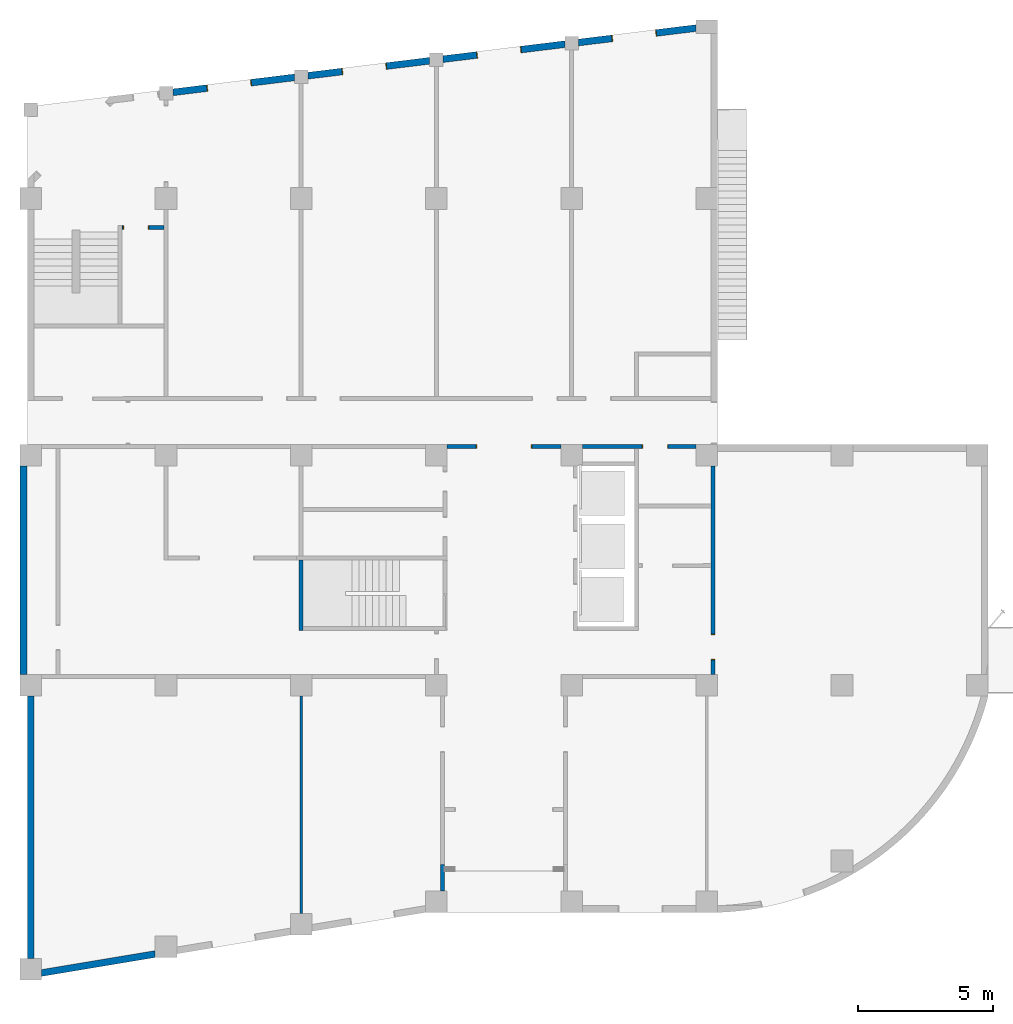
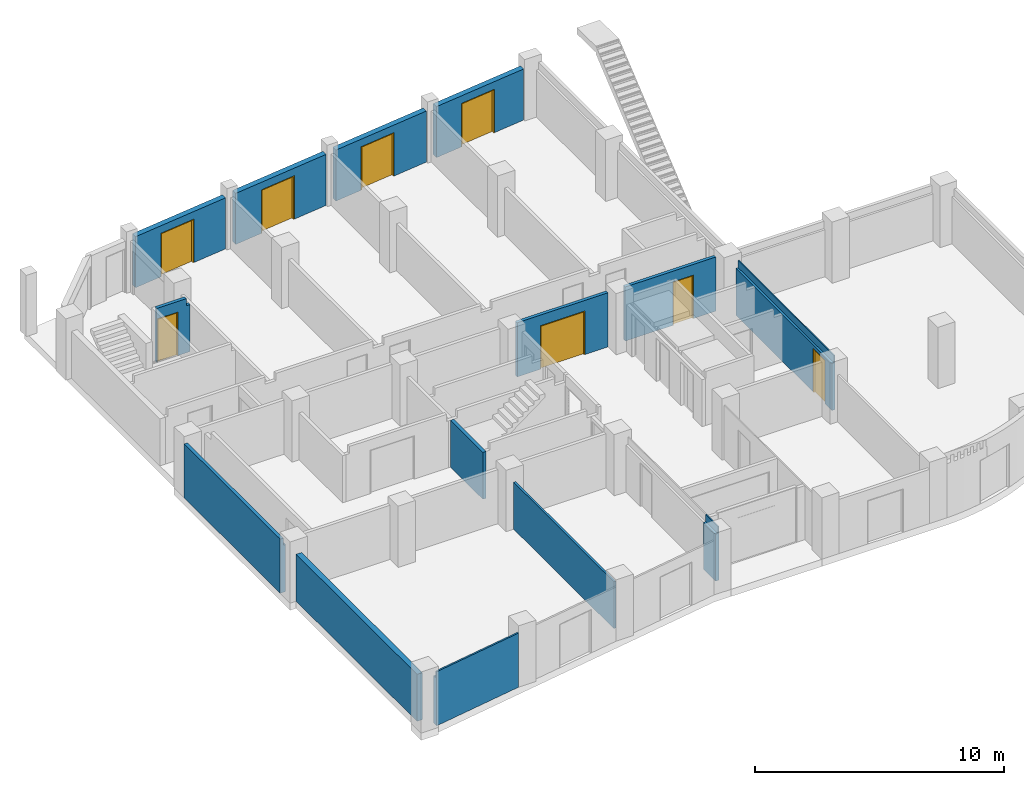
# One storey, part 2 of 9: 14 walls, 8 doors, 8 openings.
"""IFC2X3 building model written with IfcOpenShell, lengths in millimetres."""

from ifc_helpers import new_model, entity, si_unit, converted_unit, derived_unit, money_unit, direction, frame, origin_with_axes, place, context, subcontext, project, spatial, open_shell, faceted_brep, surface_model, source, transform, mapped, material, type_object, element, fill, save


model = new_model("IFC2X3")

# Units and contexts
model_context = context("Model", 3, precision=0.01, world=origin_with_axes(), true_north=direction((0.0, 1.0)))
body_context = subcontext(model_context, "Body", "Model", "MODEL_VIEW")
ifc_project = project(units=[si_unit("LENGTHUNIT", "METRE", prefix="MILLI"), si_unit("AREAUNIT", "SQUARE_METRE"), si_unit("VOLUMEUNIT", "CUBIC_METRE"), converted_unit("PLANEANGLEUNIT", "DEGREE", entity("IfcPlaneAngleMeasure", 0.0174532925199), si_unit("PLANEANGLEUNIT", "RADIAN"), dimensions=[0, 0, 0, 0, 0, 0, 0]), si_unit("SOLIDANGLEUNIT", "STERADIAN"), money_unit("JPY"), converted_unit("TIMEUNIT", "Year", entity("IfcTimeMeasure", 31556926.0), si_unit("TIMEUNIT", "SECOND"), dimensions=[0, 0, 1, 0, 0, 0, 0]), si_unit("MASSUNIT", "GRAM", prefix="KILO"), si_unit("THERMODYNAMICTEMPERATUREUNIT", "DEGREE_CELSIUS"), si_unit("LUMINOUSINTENSITYUNIT", "LUMEN"), si_unit("ENERGYUNIT", "JOULE", prefix="MEGA"), derived_unit("THERMALCONDUCTANCEUNIT", [(si_unit("POWERUNIT", "WATT"), 1), (si_unit("LENGTHUNIT", "METRE"), -1), (si_unit("THERMODYNAMICTEMPERATUREUNIT", "KELVIN"), -1)]), derived_unit("SPECIFICHEATCAPACITYUNIT", [(si_unit("ENERGYUNIT", "JOULE"), 1), (si_unit("MASSUNIT", "GRAM", prefix="KILO"), -1), (si_unit("THERMODYNAMICTEMPERATUREUNIT", "KELVIN"), -1)]), derived_unit("MASSDENSITYUNIT", [(si_unit("MASSUNIT", "GRAM", prefix="KILO"), 1), (si_unit("VOLUMEUNIT", "CUBIC_METRE"), -1)])], contexts=[model_context])

# Site, building, storey
site_placement = place(None, origin_with_axes())
site = spatial("IfcSite", under=ifc_project, at=site_placement, Name="サイト", CompositionType="ELEMENT")
building_placement = place(site_placement, origin_with_axes())
building = spatial("IfcBuilding", under=site, at=building_placement, Name="建築", CompositionType="ELEMENT")
storey_placement = place(building_placement, origin_with_axes())
storey = spatial("IfcBuildingStorey", under=building, at=storey_placement, Name="1FL", CompositionType="ELEMENT", Elevation=0.0)

# Wall, opening, door
ifc_material_1 = material(Name="コンクリート")
wall_type_1 = type_object("IfcWallType", Name="コンクリート 150", PredefinedType="NOTDEFINED")
wall_1_placement = place(storey_placement, frame((20000.0, 8825.000045, 0.0), z_axis=(0.0, 0.0, 1.0), x_axis=(1.0, 0.0, 0.0)))
wall_1 = element("IfcWall", 1, at=wall_1_placement, inside=storey, type_object=wall_type_1, material=ifc_material_1, Name="W6", context=body_context, shape_type="Brep", body=[
    faceted_brep([(2610.0, 74.999955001, 2130.0), (2610.0, 74.999955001, 0.0), (400.0, 74.999955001, 0.0), (400.0, 74.999955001, 2650.0), (4600.0, 74.999955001, 2650.0), (4600.0, 74.999955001, 0.0), (3570.0, 74.999955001, 0.0), (3570.0, 74.999955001, 2130.0), (2610.0, -75.0, 2130.0), (2610.0, -75.0, 0.0), (400.0, -75.0, 0.0), (400.0, -75.0000015, 2650.0), (4600.0, -75.000043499, 2650.0), (4600.0, -75.0, 0.0), (3570.0, -75.0, 0.0), (3570.0, -75.0, 2130.0)], [[[0, 1, 2, 3, 4, 5, 6, 7]], [[1, 0, 8, 9]], [[1, 9, 10, 2]], [[11, 3, 2, 10]], [[12, 4, 3, 11]], [[5, 4, 12, 13]], [[14, 6, 5, 13]], [[7, 6, 14, 15]], [[0, 7, 15, 8]], [[15, 14, 13, 12, 11, 10, 9, 8]]]),
])
opening_1_placement = place(wall_1_placement, frame((3090.0, 0.0, 0.0), z_axis=(0.0, 0.0, 1.0), x_axis=(1.0, 0.0, 0.0)))
opening_1 = element("IfcOpeningElement", 2, at=opening_1_placement, cuts=wall_1, Name="SD3", context=body_context, shape_type="Brep", body=[
    faceted_brep([(480.0, 160.0, 0.0), (480.0, 160.0, 2130.0), (480.0, -160.0, 2130.0), (480.0, -160.0, 0.0), (-480.0, 160.0, 0.0), (-480.0, 160.0, 2130.0), (-480.0, -160.0, 2130.0), (-480.0, -160.0, 0.0)], [[[0, 1, 2, 3]], [[0, 4, 5, 1]], [[1, 5, 6, 2]], [[3, 2, 6, 7]], [[4, 0, 3, 7]], [[5, 4, 7, 6]]]),
])
door_style_1 = type_object("IfcDoorStyle", Name="片開き戸", ConstructionType="NOTDEFINED", OperationType="NOTDEFINED", ParameterTakesPrecedence=False, Sizeable=False)
shared_shape_1 = source(origin_with_axes(), body_context, "Body", "SurfaceModel", [
    surface_model("IfcShellBasedSurfaceModel", [(-450.0, 85.0, 0.0), (-450.0, 85.0, 2100.0), (450.0, 85.0, 2100.0), (450.0, 85.0, 0.0)], [open_shell([[[0, 1, 2, 3]]])]),
    surface_model("IfcShellBasedSurfaceModel", [(-480.0, 160.0, 0.0), (-480.0, 160.0, 2130.0), (480.0, 160.0, 2130.0), (480.0, 160.0, 0.0), (450.0, 160.0, 0.0), (450.0, 160.0, 2100.0), (-450.0, 160.0, 2100.0), (-450.0, 160.0, 0.0)], [open_shell([[[0, 1, 2, 3, 4, 5, 6, 7]]])]),
    surface_model("IfcShellBasedSurfaceModel", [(-480.0, 10.0, 0.0), (-480.0, 10.0, 2130.0), (480.0, 10.0, 2130.0), (480.0, 10.0, 0.0), (450.0, 10.0, 0.0), (450.0, 10.0, 2100.0), (-450.0, 10.0, 2100.0), (-450.0, 10.0, 0.0)], [open_shell([[[0, 1, 2, 3, 4, 5, 6, 7]]])]),
    surface_model("IfcShellBasedSurfaceModel", [(-450.0, 160.0, 0.0), (-450.0, 160.0, 2100.0), (-450.0, 10.0, 2100.0), (-450.0, 10.0, 0.0), (450.0, 160.0, 2100.0), (450.0, 10.0, 2100.0), (-480.0, 160.0, 0.0), (-480.0, 10.0, 0.0), (450.0, 160.0, 0.0), (450.0, 10.0, 0.0), (-480.0, 160.0, 2130.0), (-480.0, 10.0, 2130.0), (480.0, 160.0, 0.0), (480.0, 10.0, 0.0), (480.0, 160.0, 2130.0), (480.0, 10.0, 2130.0)], [open_shell([[[0, 1, 2, 3]], [[1, 4, 5, 2]], [[6, 0, 3, 7]], [[4, 8, 9, 5]], [[10, 6, 7, 11]], [[8, 12, 13, 9]], [[14, 10, 11, 15]], [[12, 14, 15, 13]]])]),
])
door_1_placement = place(opening_1_placement, frame((450.0, 0.0, 0.0), z_axis=(0.0, 0.0, 1.0), x_axis=(-1.0, 0.0, 0.0)))
door_1 = element("IfcDoor", 3, at=door_1_placement, inside=storey, type_object=door_style_1, Name="SD3", OverallHeight=2165.0, OverallWidth=1030.0, context=body_context, shape_type="MappedRepresentation", body=[
    mapped(shared_shape_1, transform((450.0, -85.0, 0.0))),
])
fill(opening_1, door_1)

wall_2_placement = place(storey_placement, frame((20000.0, 8825.000045, 0.0), z_axis=(0.0, 0.0, 1.0), x_axis=(-1.0, 0.0, 0.0)))
wall_2 = element("IfcWall", 4, at=wall_2_placement, inside=storey, type_object=wall_type_1, material=ifc_material_1, Name="W7", context=body_context, shape_type="Brep", body=[
    faceted_brep([(3530.0, -74.999955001, 2130.0), (3530.0, -74.999955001, 0.0), (4600.0, -74.999955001, 0.0), (4600.0, -74.999955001, 2650.0), (400.0, -74.999955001, 2650.0), (400.0, -74.999955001, 0.0), (1470.0, -74.999955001, 0.0), (1470.0, -74.999955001, 2130.0), (3530.0, 75.0, 2130.0), (3530.0, 75.0, 0.0), (4600.0, 75.0, 0.0), (4600.0, 75.0, 2650.0), (400.0, 75.0, 2650.0), (400.0, 75.0, 0.0), (1470.0, 75.0, 0.0), (1470.0, 75.0, 2130.0)], [[[0, 1, 2, 3, 4, 5, 6, 7]], [[1, 0, 8, 9]], [[1, 9, 10, 2]], [[11, 3, 2, 10]], [[12, 4, 3, 11]], [[5, 4, 12, 13]], [[14, 6, 5, 13]], [[7, 6, 14, 15]], [[0, 7, 15, 8]], [[15, 14, 13, 12, 11, 10, 9, 8]]]),
])
opening_2_placement = place(wall_2_placement, frame((2500.0, 0.0, 0.0), z_axis=(0.0, 0.0, 1.0), x_axis=(1.0, 0.0, 0.0)))
opening_2 = element("IfcOpeningElement", 5, at=opening_2_placement, cuts=wall_2, Name="SD4", context=body_context, shape_type="Brep", body=[
    faceted_brep([(-1030.0, -160.0, 0.0), (-1030.0, -160.0, 2130.0), (-1030.0, 160.0, 2130.0), (-1030.0, 160.0, 0.0), (1030.0, -160.0, 0.0), (1030.0, -160.0, 2130.0), (1030.0, 160.0, 2130.0), (1030.0, 160.0, 0.0)], [[[0, 1, 2, 3]], [[0, 4, 5, 1]], [[1, 5, 6, 2]], [[3, 2, 6, 7]], [[4, 0, 3, 7]], [[5, 4, 7, 6]]]),
])
door_style_2 = type_object("IfcDoorStyle", Name="両開き戸", ConstructionType="NOTDEFINED", OperationType="NOTDEFINED", ParameterTakesPrecedence=False, Sizeable=False)
shared_shape_2 = source(origin_with_axes(), body_context, "Body", "SurfaceModel", [
    surface_model("IfcShellBasedSurfaceModel", [(0.0, -85.0, 0.0), (0.0, -85.0, 2100.0), (1000.0, -85.0, 2100.0), (1000.0, -85.0, 0.0)], [open_shell([[[0, 1, 2, 3]]])]),
    surface_model("IfcShellBasedSurfaceModel", [(0.0, -85.0, 0.0), (-1000.0, -85.0, 0.0), (-1000.0, -85.0, 2100.0), (0.0, -85.0, 2100.0)], [open_shell([[[0, 1, 2, 3]]])]),
    surface_model("IfcShellBasedSurfaceModel", [(-1030.0, -10.0, 0.0), (-1030.0, -10.0, 2130.0), (1030.0, -10.0, 2130.0), (1030.0, -10.0, 0.0), (1000.0, -10.0, 0.0), (1000.0, -10.0, 2100.0), (-1000.0, -10.0, 2100.0), (-1000.0, -10.0, 0.0)], [open_shell([[[0, 1, 2, 3, 4, 5, 6, 7]]])]),
    surface_model("IfcShellBasedSurfaceModel", [(-1030.0, -160.0, 0.0), (-1030.0, -160.0, 2130.0), (1030.0, -160.0, 2130.0), (1030.0, -160.0, 0.0), (1000.0, -160.0, 0.0), (1000.0, -160.0, 2100.0), (-1000.0, -160.0, 2100.0), (-1000.0, -160.0, 0.0)], [open_shell([[[0, 1, 2, 3, 4, 5, 6, 7]]])]),
    surface_model("IfcShellBasedSurfaceModel", [(-1000.0, -10.0, 0.0), (-1000.0, -10.0, 2100.0), (-1000.0, -160.0, 2100.0), (-1000.0, -160.0, 0.0), (1000.0, -10.0, 2100.0), (1000.0, -160.0, 2100.0), (-1030.0, -10.0, 0.0), (-1030.0, -160.0, 0.0), (1000.0, -10.0, 0.0), (1000.0, -160.0, 0.0), (-1030.0, -10.0, 2130.0), (-1030.0, -160.0, 2130.0), (1030.0, -10.0, 0.0), (1030.0, -160.0, 0.0), (1030.0, -10.0, 2130.0), (1030.0, -160.0, 2130.0)], [open_shell([[[0, 1, 2, 3]], [[1, 4, 5, 2]], [[6, 0, 3, 7]], [[4, 8, 9, 5]], [[10, 6, 7, 11]], [[8, 12, 13, 9]], [[14, 10, 11, 15]], [[12, 14, 15, 13]]])]),
])
door_2_placement = place(opening_2_placement, frame((-1000.0, 0.0, 0.0), z_axis=(0.0, 0.0, 1.0), x_axis=(1.0, 0.0, 0.0)))
door_2 = element("IfcDoor", 6, at=door_2_placement, inside=storey, type_object=door_style_2, Name="SD4", OverallHeight=2165.0, OverallWidth=2130.0, context=body_context, shape_type="MappedRepresentation", body=[
    mapped(shared_shape_2, transform((1000.0, 85.0, 0.0))),
])
fill(opening_2, door_2)

wall_3_placement = place(storey_placement, frame((25224.9999795, 325.000021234, 0.0), z_axis=(0.0, 0.0, 1.0), x_axis=(0.0, 1.0, 0.0)))
wall_3 = element("IfcWall", 7, at=wall_3_placement, inside=storey, type_object=wall_type_1, material=ifc_material_1, Name="W5", context=body_context, shape_type="Brep", body=[
    faceted_brep([(609.999973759, -75.0, 0.0), (609.999973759, -75.0, 2130.0), (1569.99997376, -75.0, 2130.0), (1569.99997376, -75.0, 0.0), (7774.99997877, -75.0, 0.0), (7774.99997877, -75.0, 2650.0), (75.0, -75.0, 2650.0), (75.0, -75.0, 0.0), (609.999973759, 75.0, 0.0), (609.999973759, 75.0, 2130.0), (1569.99997376, 75.0, 2130.0), (1569.99997376, 75.0, 0.0), (7774.99997877, 75.0, 0.0), (7774.99997877, 75.0, 2300.0), (7774.99997877, -25.0000205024, 2300.0), (7774.99997877, -25.0000205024, 2650.0), (75.0, -25.0000205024, 2650.0), (75.0, 75.0, 2300.0), (75.0, 75.0, 0.0), (75.0, -25.0000205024, 2300.0)], [[[0, 1, 2, 3, 4, 5, 6, 7]], [[1, 0, 8, 9]], [[2, 1, 9, 10]], [[3, 2, 10, 11]], [[3, 11, 12, 4]], [[4, 12, 13, 14, 15, 5]], [[5, 15, 16, 6]], [[17, 18, 7, 6, 16, 19]], [[8, 0, 7, 18]], [[9, 8, 18, 17, 13, 12, 11, 10]], [[14, 13, 17, 19]], [[15, 14, 19, 16]]]),
])
opening_3_placement = place(wall_3_placement, frame((1089.99997376, 0.0, 0.0), z_axis=(0.0, 0.0, 1.0), x_axis=(1.0, 0.0, 0.0)))
opening_3 = element("IfcOpeningElement", 8, at=opening_3_placement, cuts=wall_3, Name="SD3", context=body_context, shape_type="Brep", body=[
    faceted_brep([(480.0, 160.0, 0.0), (480.0, 160.0, 2130.0), (480.0, -160.0, 2130.0), (480.0, -160.0, 0.0), (-480.0, 160.0, 0.0), (-480.0, 160.0, 2130.0), (-480.0, -160.0, 2130.0), (-480.0, -160.0, 0.0)], [[[0, 1, 2, 3]], [[0, 4, 5, 1]], [[1, 5, 6, 2]], [[3, 2, 6, 7]], [[4, 0, 3, 7]], [[5, 4, 7, 6]]]),
])
shared_shape_3 = source(origin_with_axes(), body_context, "Body", "SurfaceModel", [
    surface_model("IfcShellBasedSurfaceModel", [(-450.0, -85.0, 0.0), (-450.0, -85.0, 2100.0), (450.0, -85.0, 2100.0), (450.0, -85.0, 0.0)], [open_shell([[[0, 1, 2, 3]]])]),
    surface_model("IfcShellBasedSurfaceModel", [(-480.0, -10.0, 0.0), (-480.0, -10.0, 2130.0), (480.0, -10.0, 2130.0), (480.0, -10.0, 0.0), (450.0, -10.0, 0.0), (450.0, -10.0, 2100.0), (-450.0, -10.0, 2100.0), (-450.0, -10.0, 0.0)], [open_shell([[[0, 1, 2, 3, 4, 5, 6, 7]]])]),
    surface_model("IfcShellBasedSurfaceModel", [(-480.0, -160.0, 0.0), (-480.0, -160.0, 2130.0), (480.0, -160.0, 2130.0), (480.0, -160.0, 0.0), (450.0, -160.0, 0.0), (450.0, -160.0, 2100.0), (-450.0, -160.0, 2100.0), (-450.0, -160.0, 0.0)], [open_shell([[[0, 1, 2, 3, 4, 5, 6, 7]]])]),
    surface_model("IfcShellBasedSurfaceModel", [(-450.0, -10.0, 0.0), (-450.0, -10.0, 2100.0), (-450.0, -160.0, 2100.0), (-450.0, -160.0, 0.0), (450.0, -10.0, 2100.0), (450.0, -160.0, 2100.0), (-480.0, -10.0, 0.0), (-480.0, -160.0, 0.0), (450.0, -10.0, 0.0), (450.0, -160.0, 0.0), (-480.0, -10.0, 2130.0), (-480.0, -160.0, 2130.0), (480.0, -10.0, 0.0), (480.0, -160.0, 0.0), (480.0, -10.0, 2130.0), (480.0, -160.0, 2130.0)], [open_shell([[[0, 1, 2, 3]], [[1, 4, 5, 2]], [[6, 0, 3, 7]], [[4, 8, 9, 5]], [[10, 6, 7, 11]], [[8, 12, 13, 9]], [[14, 10, 11, 15]], [[12, 14, 15, 13]]])]),
])
door_3_placement = place(opening_3_placement, frame((450.0, 0.0, 0.0), z_axis=(0.0, 0.0, 1.0), x_axis=(-1.0, 0.0, 0.0)))
door_3 = element("IfcDoor", 9, at=door_3_placement, inside=storey, type_object=door_style_1, Name="SD3", OverallHeight=2165.0, OverallWidth=1030.0, context=body_context, shape_type="MappedRepresentation", body=[
    mapped(shared_shape_3, transform((450.0, 85.0, 0.0))),
])
fill(opening_3, door_3)

# Walls
wall_4_placement = place(storey_placement, frame((10000.0, 4700.0, 0.0), z_axis=(0.0, 0.0, 1.0), x_axis=(0.0, -1.0, 0.0)))
element("IfcWall", 10, at=wall_4_placement, inside=storey, type_object=wall_type_1, material=ifc_material_1, Name="W2", context=body_context, shape_type="Brep", body=[
    faceted_brep([(75.0, -75.0, 0.0), (75.0, -75.0, 2300.0), (75.0, 75.0, 2300.0), (75.0, 75.0, 0.0), (2675.0, -75.0, 0.0), (2675.0, -75.0, 2300.0), (2675.0, 75.0, 2300.0), (2675.0, 75.0, 0.0)], [[[0, 1, 2, 3]], [[4, 5, 1, 0]], [[5, 6, 2, 1]], [[3, 2, 6, 7]], [[3, 7, 4, 0]], [[7, 6, 5, 4]]]),
])
wall_5_placement = place(storey_placement, frame((15224.9999475, -6800.0, 0.0), z_axis=(0.0, 0.0, 1.0), x_axis=(0.0, -1.0, 0.0)))
element("IfcWall", 11, at=wall_5_placement, inside=storey, type_object=wall_type_1, material=ifc_material_1, Name="W4", context=body_context, shape_type="Brep", body=[
    faceted_brep([(-175.0, 25.0000524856, 2650.0), (800.0, 25.0000524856, 2650.0), (800.0, 74.9999999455, 2650.0), (75.0, 75.0, 2650.0), (-175.0, 75.0, 2650.0), (-175.0, 25.0000524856, 2300.0), (800.0, 25.0000524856, 2300.0), (800.0, -75.0, 0.0), (800.0, 75.0, 0.0), (800.0, -75.0, 2300.0), (-175.0, 75.0, 0.0), (-175.0, -75.0, 0.0), (-175.0, -75.0, 2300.0)], [[[0, 1, 2, 3, 4]], [[5, 6, 1, 0]], [[7, 8, 2, 1, 6, 9]], [[3, 2, 8, 10, 4]], [[10, 11, 12, 5, 0, 4]], [[12, 9, 6, 5]], [[10, 8, 7, 11]], [[11, 7, 9, 12]]]),
])

# Wall, opening, door
wall_6_placement = place(storey_placement, frame((3300.0, 16925.000045, 0.0), z_axis=(0.0, 0.0, 1.0), x_axis=(1.0, 0.0, 0.0)))
wall_6 = element("IfcWall", 12, at=wall_6_placement, inside=storey, type_object=wall_type_1, material=ifc_material_1, Name="W9", context=body_context, shape_type="Brep", body=[
    faceted_brep([(110.0, 75.0, 2130.0), (110.0, 75.0, 0.0), (75.0, 75.0, 0.0), (75.0, 75.0, 2650.0), (1450.0, 75.0, 2650.0), (1450.0, 75.0, 2300.0), (1625.0, 75.0, 2300.0), (1625.0, 75.0, 0.0), (1070.0, 75.0, 0.0), (1070.0, 75.0, 2130.0), (110.0, -75.0, 2130.0), (110.0, -75.0, 0.0), (75.0, -75.0, 0.0), (75.0, -75.0, 2650.0), (1450.0, -75.0, 2650.0), (1450.0, -75.0, 2300.0), (1625.0, -75.0, 2300.0), (1625.0, -75.0, 0.0), (1070.0, -75.0, 0.0), (1070.0, -75.0, 2130.0)], [[[0, 1, 2, 3, 4, 5, 6, 7, 8, 9]], [[1, 0, 10, 11]], [[1, 11, 12, 2]], [[12, 13, 3, 2]], [[14, 4, 3, 13]], [[5, 4, 14, 15]], [[16, 6, 5, 15]], [[6, 16, 17, 7]], [[18, 8, 7, 17]], [[9, 8, 18, 19]], [[0, 9, 19, 10]], [[19, 18, 17, 16, 15, 14, 13, 12, 11, 10]]]),
])
opening_4_placement = place(wall_6_placement, frame((590.0, 0.0, 0.0), z_axis=(0.0, 0.0, 1.0), x_axis=(1.0, 0.0, 0.0)))
opening_4 = element("IfcOpeningElement", 13, at=opening_4_placement, cuts=wall_6, Name="SD3", context=body_context, shape_type="Brep", body=[
    faceted_brep([(-480.0, -160.0, 0.0), (-480.0, -160.0, 2130.0), (-480.0, 160.0, 2130.0), (-480.0, 160.0, 0.0), (480.0, -160.0, 0.0), (480.0, -160.0, 2130.0), (480.0, 160.0, 2130.0), (480.0, 160.0, 0.0)], [[[0, 1, 2, 3]], [[0, 4, 5, 1]], [[1, 5, 6, 2]], [[3, 2, 6, 7]], [[4, 0, 3, 7]], [[5, 4, 7, 6]]]),
])
door_4_placement = place(opening_4_placement, frame((-450.0, 0.0, 0.0), z_axis=(0.0, 0.0, 1.0), x_axis=(1.0, 0.0, 0.0)))
door_4 = element("IfcDoor", 14, at=door_4_placement, inside=storey, type_object=door_style_1, Name="SD3", OverallHeight=2165.0, OverallWidth=1030.0, context=body_context, shape_type="MappedRepresentation", body=[
    mapped(shared_shape_3, transform((450.0, 85.0, 0.0))),
])
fill(opening_4, door_4)

# Walls
wall_type_2 = type_object("IfcWallType", Name="コンクリート 250", PredefinedType="NOTDEFINED")
wall_7_placement = place(storey_placement, frame((0.0, -10706.6091116, 0.0), z_axis=(0.0, 0.0, 1.0), x_axis=(0.0, 1.0, 0.0)))
element("IfcWall", 15, at=wall_7_placement, inside=storey, type_object=wall_type_2, material=ifc_material_1, Name="W1", context=body_context, shape_type="Brep", body=[
    faceted_brep([(606.609111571, -125.0, 0.0), (10306.6091116, -125.0, 0.0), (10306.6091116, -125.0, 2300.0), (606.609111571, -125.0, 2300.0), (606.609111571, 125.0, 0.0), (10306.6091116, 125.0, 0.0), (10306.6091116, 124.999998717, 2300.0), (606.609111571, 124.999979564, 2300.0)], [[[0, 1, 2, 3]], [[4, 5, 1, 0]], [[5, 6, 2, 1]], [[3, 2, 6, 7]], [[4, 0, 3, 7]], [[7, 6, 5, 4]]]),
])
wall_8_placement = place(storey_placement, frame((0.0, -10706.6091116, 0.0), z_axis=(0.0, 0.0, 1.0), x_axis=(0.986393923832, 0.164398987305, 0.0)))
element("IfcWall", 16, at=wall_8_placement, inside=storey, type_object=wall_type_2, material=ifc_material_1, Name="W1", context=body_context, shape_type="Brep", body=[
    faceted_brep([(4684.28460656, 125.0, 0.0), (426.350835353, 125.0, 0.0), (426.350835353, 125.0, 2300.0), (4684.28460656, 125.0, 2300.0), (4642.6179395, -125.000002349, 0.0), (384.684168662, -125.000000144, 0.0), (397.817163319, -46.2020322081, 2650.0), (397.817163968, -46.2020283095, 2300.0), (384.68417469, -124.999963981, 2650.0), (4655.75093456, -46.2020320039, 2300.0), (4655.75093453, -46.2020322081, 2650.0), (4642.6179395, -125.000002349, 2650.0)], [[[0, 1, 2, 3]], [[4, 5, 1, 0]], [[6, 7, 2, 1, 5, 8]], [[3, 2, 7, 9]], [[4, 0, 3, 9, 10, 11]], [[11, 8, 5, 4]], [[9, 7, 6, 10]], [[10, 6, 8, 11]]]),
])

# Wall, opening, door
wall_9_placement = place(storey_placement, frame((25275.0000022, 24386.4094537, 0.0), z_axis=(0.0, 0.0, 1.0), x_axis=(-0.992546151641, -0.121869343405, 0.0)))
wall_9 = element("IfcWall", 17, at=wall_9_placement, inside=storey, type_object=wall_type_2, material=ifc_material_1, Name="W4", context=body_context, shape_type="Brep", body=[
    faceted_brep([(3814.61433149, 125.0, 0.0), (3814.61433149, 125.0, 2130.0), (2154.61433149, 125.0, 2130.0), (2154.61433149, 125.0, 0.0), (695.417204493, 125.0, 0.0), (695.417204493, 125.0, 2500.0), (5078.08494524, 125.0, 2500.0), (5078.08494524, 125.0, 0.0), (3814.61433149, -125.0, 0.0), (3814.61433149, -125.0, 2130.0), (2154.61433149, -125.0, 2130.0), (2154.61433149, -125.0, 0.0), (664.721064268, -125.0, 0.0), (664.721064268, -125.0, 2500.0), (5047.38880501, -125.0, 2500.0), (5047.38880501, -125.0, 0.0)], [[[0, 1, 2, 3, 4, 5, 6, 7]], [[1, 0, 8, 9]], [[2, 1, 9, 10]], [[3, 2, 10, 11]], [[3, 11, 12, 4]], [[12, 13, 5, 4]], [[5, 13, 14, 6]], [[6, 14, 15, 7]], [[8, 0, 7, 15]], [[9, 8, 15, 14, 13, 12, 11, 10]]]),
])
opening_5_placement = place(wall_9_placement, frame((2984.61433149, 0.0, 0.0), z_axis=(0.0, 0.0, 1.0), x_axis=(1.0, 0.0, 0.0)))
opening_5 = element("IfcOpeningElement", 18, at=opening_5_placement, cuts=wall_9, Name="SD4", context=body_context, shape_type="Brep", body=[
    faceted_brep([(830.0, 260.0, 0.0), (830.0, 260.0, 2130.0), (830.0, -260.0, 2130.0), (830.0, -260.0, 0.0), (-830.0, 260.0, 0.0), (-830.0, 260.0, 2130.0), (-830.0, -260.0, 2130.0), (-830.0, -260.0, 0.0)], [[[0, 1, 2, 3]], [[0, 4, 5, 1]], [[1, 5, 6, 2]], [[3, 2, 6, 7]], [[4, 0, 3, 7]], [[5, 4, 7, 6]]]),
])
door_style_3 = type_object("IfcDoorStyle", Name="自由開き戸", ConstructionType="NOTDEFINED", OperationType="NOTDEFINED", ParameterTakesPrecedence=False, Sizeable=False)
shared_shape_4 = source(origin_with_axes(), body_context, "Body", "SurfaceModel", [
    surface_model("IfcShellBasedSurfaceModel", [(0.0, -135.0, 0.0), (0.0, -135.0, 2100.0), (800.0, -135.0, 2100.0), (800.0, -135.0, 0.0)], [open_shell([[[0, 1, 2, 3]]])]),
    surface_model("IfcShellBasedSurfaceModel", [(0.0, -135.0, 0.0), (-800.0, -135.0, 0.0), (-800.0, -135.0, 2100.0), (0.0, -135.0, 2100.0)], [open_shell([[[0, 1, 2, 3]]])]),
    surface_model("IfcShellBasedSurfaceModel", [(-830.0, -10.0, 0.0), (-830.0, -10.0, 2130.0), (830.0, -10.0, 2130.0), (830.0, -10.0, 0.0), (800.0, -10.0, 0.0), (800.0, -10.0, 2100.0), (-800.0, -10.0, 2100.0), (-800.0, -10.0, 0.0)], [open_shell([[[0, 1, 2, 3, 4, 5, 6, 7]]])]),
    surface_model("IfcShellBasedSurfaceModel", [(-830.0, -260.0, 0.0), (-830.0, -260.0, 2130.0), (830.0, -260.0, 2130.0), (830.0, -260.0, 0.0), (800.0, -260.0, 0.0), (800.0, -260.0, 2100.0), (-800.0, -260.0, 2100.0), (-800.0, -260.0, 0.0)], [open_shell([[[0, 1, 2, 3, 4, 5, 6, 7]]])]),
    surface_model("IfcShellBasedSurfaceModel", [(-800.0, -10.0, 0.0), (-800.0, -10.0, 2100.0), (-800.0, -260.0, 2100.0), (-800.0, -260.0, 0.0), (800.0, -10.0, 2100.0), (800.0, -260.0, 2100.0), (-830.0, -10.0, 0.0), (-830.0, -260.0, 0.0), (800.0, -10.0, 0.0), (800.0, -260.0, 0.0), (-830.0, -10.0, 2130.0), (-830.0, -260.0, 2130.0), (830.0, -10.0, 0.0), (830.0, -260.0, 0.0), (830.0, -10.0, 2130.0), (830.0, -260.0, 2130.0)], [open_shell([[[0, 1, 2, 3]], [[1, 4, 5, 2]], [[6, 0, 3, 7]], [[4, 8, 9, 5]], [[10, 6, 7, 11]], [[8, 12, 13, 9]], [[14, 10, 11, 15]], [[12, 14, 15, 13]]])]),
])
door_5_placement = place(opening_5_placement, frame((800.0, 0.0, 0.0), z_axis=(0.0, 0.0, 1.0), x_axis=(-1.0, 0.0, 0.0)))
door_5 = element("IfcDoor", 19, at=door_5_placement, inside=storey, type_object=door_style_3, Name="SD4", OverallHeight=2150.0, OverallWidth=1700.0, context=body_context, shape_type="MappedRepresentation", body=[
    mapped(shared_shape_4, transform((800.0, 135.0, 0.0))),
])
fill(opening_5, door_5)

wall_10_placement = place(storey_placement, frame((20000.0, 23738.7208947, 0.0), z_axis=(0.0, 0.0, 1.0), x_axis=(-0.992546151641, -0.121869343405, 0.0)))
wall_10 = element("IfcWall", 20, at=wall_10_placement, inside=storey, type_object=wall_type_2, material=ifc_material_1, Name="W5", context=body_context, shape_type="Brep", body=[
    faceted_brep([(3537.54912729, 125.0, 0.0), (3537.54912729, 125.0, 2130.0), (1877.54912729, 125.0, 2130.0), (1877.54912729, 125.0, 0.0), (267.225526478, 125.0, 0.0), (267.225526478, 125.0, 2500.0), (4801.01974104, 125.0, 2500.0), (4801.01974104, 125.0, 0.0), (3537.54912729, -125.0, 0.0), (3537.54912729, -125.0, 2130.0), (1877.54912729, -125.0, 2130.0), (1877.54912729, -125.0, 0.0), (236.529386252, -125.0, 0.0), (236.529386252, -125.0, 2500.0), (4770.32360082, -125.0, 2500.0), (4770.32360082, -125.0, 0.0)], [[[0, 1, 2, 3, 4, 5, 6, 7]], [[1, 0, 8, 9]], [[2, 1, 9, 10]], [[3, 2, 10, 11]], [[3, 11, 12, 4]], [[12, 13, 5, 4]], [[5, 13, 14, 6]], [[6, 14, 15, 7]], [[8, 0, 7, 15]], [[9, 8, 15, 14, 13, 12, 11, 10]]]),
])
opening_6_placement = place(wall_10_placement, frame((2707.54912729, 0.0, 0.0), z_axis=(0.0, 0.0, 1.0), x_axis=(1.0, 0.0, 0.0)))
opening_6 = element("IfcOpeningElement", 21, at=opening_6_placement, cuts=wall_10, Name="SD5", context=body_context, shape_type="Brep", body=[
    faceted_brep([(830.0, 260.0, 0.0), (830.0, 260.0, 2130.0), (830.0, -260.0, 2130.0), (830.0, -260.0, 0.0), (-830.0, 260.0, 0.0), (-830.0, 260.0, 2130.0), (-830.0, -260.0, 2130.0), (-830.0, -260.0, 0.0)], [[[0, 1, 2, 3]], [[0, 4, 5, 1]], [[1, 5, 6, 2]], [[3, 2, 6, 7]], [[4, 0, 3, 7]], [[5, 4, 7, 6]]]),
])
door_6_placement = place(opening_6_placement, frame((800.0, 0.0, 0.0), z_axis=(0.0, 0.0, 1.0), x_axis=(-1.0, 0.0, 0.0)))
door_6 = element("IfcDoor", 22, at=door_6_placement, inside=storey, type_object=door_style_3, Name="SD5", OverallHeight=2150.0, OverallWidth=1700.0, context=body_context, shape_type="MappedRepresentation", body=[
    mapped(shared_shape_4, transform((800.0, 135.0, 0.0))),
])
fill(opening_6, door_6)

wall_11_placement = place(storey_placement, frame((15000.0, 23124.7980902, 0.0), z_axis=(0.0, 0.0, 1.0), x_axis=(-0.992546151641, -0.121869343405, 0.0)))
wall_11 = element("IfcWall", 23, at=wall_11_placement, inside=storey, type_object=wall_type_2, material=ifc_material_1, Name="W6", context=body_context, shape_type="Brep", body=[
    faceted_brep([(3517.54912729, 125.0, 0.0), (3517.54912729, 125.0, 2130.0), (1857.54912729, 125.0, 2130.0), (1857.54912729, 125.0, 0.0), (267.225526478, 125.0, 0.0), (267.225526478, 125.0, 2500.0), (4801.01974104, 125.0, 2500.0), (4801.01974104, 125.0, 0.0), (3517.54912729, -125.0, 0.0), (3517.54912729, -125.0, 2130.0), (1857.54912729, -125.0, 2130.0), (1857.54912729, -125.0, 0.0), (236.529386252, -125.0, 0.0), (236.529386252, -125.0, 2500.0), (4770.32360082, -125.0, 2500.0), (4770.32360082, -125.0, 0.0)], [[[0, 1, 2, 3, 4, 5, 6, 7]], [[1, 0, 8, 9]], [[2, 1, 9, 10]], [[3, 2, 10, 11]], [[3, 11, 12, 4]], [[12, 13, 5, 4]], [[5, 13, 14, 6]], [[6, 14, 15, 7]], [[8, 0, 7, 15]], [[9, 8, 15, 14, 13, 12, 11, 10]]]),
])
opening_7_placement = place(wall_11_placement, frame((2687.54912729, 0.0, 0.0), z_axis=(0.0, 0.0, 1.0), x_axis=(1.0, 0.0, 0.0)))
opening_7 = element("IfcOpeningElement", 24, at=opening_7_placement, cuts=wall_11, Name="SD6", context=body_context, shape_type="Brep", body=[
    faceted_brep([(830.0, 260.0, 0.0), (830.0, 260.0, 2130.0), (830.0, -260.0, 2130.0), (830.0, -260.0, 0.0), (-830.0, 260.0, 0.0), (-830.0, 260.0, 2130.0), (-830.0, -260.0, 2130.0), (-830.0, -260.0, 0.0)], [[[0, 1, 2, 3]], [[0, 4, 5, 1]], [[1, 5, 6, 2]], [[3, 2, 6, 7]], [[4, 0, 3, 7]], [[5, 4, 7, 6]]]),
])
shared_shape_5 = source(origin_with_axes(), body_context, "Body", "SurfaceModel", [
    surface_model("IfcShellBasedSurfaceModel", [(0.0, 135.0, 0.0), (0.0, 135.0, 2100.0), (800.0, 135.0, 2100.0), (800.0, 135.0, 0.0)], [open_shell([[[0, 1, 2, 3]]])]),
    surface_model("IfcShellBasedSurfaceModel", [(0.0, 135.0, 0.0), (-800.0, 135.0, 0.0), (-800.0, 135.0, 2100.0), (0.0, 135.0, 2100.0)], [open_shell([[[0, 1, 2, 3]]])]),
    surface_model("IfcShellBasedSurfaceModel", [(-830.0, 260.0, 0.0), (-830.0, 260.0, 2130.0), (830.0, 260.0, 2130.0), (830.0, 260.0, 0.0), (800.0, 260.0, 0.0), (800.0, 260.0, 2100.0), (-800.0, 260.0, 2100.0), (-800.0, 260.0, 0.0)], [open_shell([[[0, 1, 2, 3, 4, 5, 6, 7]]])]),
    surface_model("IfcShellBasedSurfaceModel", [(-830.0, 10.0, 0.0), (-830.0, 10.0, 2130.0), (830.0, 10.0, 2130.0), (830.0, 10.0, 0.0), (800.0, 10.0, 0.0), (800.0, 10.0, 2100.0), (-800.0, 10.0, 2100.0), (-800.0, 10.0, 0.0)], [open_shell([[[0, 1, 2, 3, 4, 5, 6, 7]]])]),
    surface_model("IfcShellBasedSurfaceModel", [(-800.0, 260.0, 0.0), (-800.0, 260.0, 2100.0), (-800.0, 10.0, 2100.0), (-800.0, 10.0, 0.0), (800.0, 260.0, 2100.0), (800.0, 10.0, 2100.0), (-830.0, 260.0, 0.0), (-830.0, 10.0, 0.0), (800.0, 260.0, 0.0), (800.0, 10.0, 0.0), (-830.0, 260.0, 2130.0), (-830.0, 10.0, 2130.0), (830.0, 260.0, 0.0), (830.0, 10.0, 0.0), (830.0, 260.0, 2130.0), (830.0, 10.0, 2130.0)], [open_shell([[[0, 1, 2, 3]], [[1, 4, 5, 2]], [[6, 0, 3, 7]], [[4, 8, 9, 5]], [[10, 6, 7, 11]], [[8, 12, 13, 9]], [[14, 10, 11, 15]], [[12, 14, 15, 13]]])]),
])
door_7_placement = place(opening_7_placement, frame((800.0, 0.0, 0.0), z_axis=(0.0, 0.0, 1.0), x_axis=(-1.0, 0.0, 0.0)))
door_7 = element("IfcDoor", 25, at=door_7_placement, inside=storey, type_object=door_style_3, Name="SD6", OverallHeight=2150.0, OverallWidth=1700.0, context=body_context, shape_type="MappedRepresentation", body=[
    mapped(shared_shape_5, transform((800.0, -135.0, 0.0))),
])
fill(opening_7, door_7)

wall_12_placement = place(storey_placement, frame((10000.0, 22510.8752856, 0.0), z_axis=(0.0, 0.0, 1.0), x_axis=(-0.992546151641, -0.121869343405, 0.0)))
wall_12 = element("IfcWall", 26, at=wall_12_placement, inside=storey, type_object=wall_type_2, material=ifc_material_1, Name="W7", context=body_context, shape_type="Brep", body=[
    faceted_brep([(3517.54912729, 125.0, 0.0), (3517.54912729, 125.0, 2130.0), (1857.54912729, 125.0, 2130.0), (1857.54912729, 125.0, 0.0), (267.225526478, 125.0, 0.0), (267.225526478, 125.0, 2500.0), (4801.01974104, 125.0, 2500.0), (4801.01974104, 125.0, 0.0), (3517.54912729, -125.0, 0.0), (3517.54912729, -125.0, 2130.0), (1857.54912729, -125.0, 2130.0), (1857.54912729, -125.0, 0.0), (236.529386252, -125.0, 0.0), (236.529386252, -125.0, 2500.0), (4770.32360082, -125.0, 2500.0), (4770.32360082, -125.0, 0.0)], [[[0, 1, 2, 3, 4, 5, 6, 7]], [[1, 0, 8, 9]], [[2, 1, 9, 10]], [[3, 2, 10, 11]], [[3, 11, 12, 4]], [[12, 13, 5, 4]], [[5, 13, 14, 6]], [[6, 14, 15, 7]], [[8, 0, 7, 15]], [[9, 8, 15, 14, 13, 12, 11, 10]]]),
])
opening_8_placement = place(wall_12_placement, frame((2687.54912729, 0.0, 0.0), z_axis=(0.0, 0.0, 1.0), x_axis=(1.0, 0.0, 0.0)))
opening_8 = element("IfcOpeningElement", 27, at=opening_8_placement, cuts=wall_12, Name="SD7", context=body_context, shape_type="Brep", body=[
    faceted_brep([(830.0, 260.0, 0.0), (830.0, 260.0, 2130.0), (830.0, -260.0, 2130.0), (830.0, -260.0, 0.0), (-830.0, 260.0, 0.0), (-830.0, 260.0, 2130.0), (-830.0, -260.0, 2130.0), (-830.0, -260.0, 0.0)], [[[0, 1, 2, 3]], [[0, 4, 5, 1]], [[1, 5, 6, 2]], [[3, 2, 6, 7]], [[4, 0, 3, 7]], [[5, 4, 7, 6]]]),
])
door_8_placement = place(opening_8_placement, frame((800.0, 0.0, 0.0), z_axis=(0.0, 0.0, 1.0), x_axis=(-1.0, 0.0, 0.0)))
door_8 = element("IfcDoor", 28, at=door_8_placement, inside=storey, type_object=door_style_3, Name="SD7", OverallHeight=2150.0, OverallWidth=1700.0, context=body_context, shape_type="MappedRepresentation", body=[
    mapped(shared_shape_5, transform((800.0, -135.0, 0.0))),
])
fill(opening_8, door_8)

# Walls
wall_13_placement = place(storey_placement, frame((-275.00006329, 8825.000045, 0.0), z_axis=(0.0, 0.0, 1.0), x_axis=(0.0, -1.0, 0.0)))
element("IfcWall", 29, at=wall_13_placement, inside=storey, type_object=wall_type_2, material=ifc_material_1, Name="W1", context=body_context, shape_type="Brep", body=[
    faceted_brep([(725.000044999, 25.0000632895, 2300.0), (8425.000045, 25.0000632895, 2300.0), (8425.000045, 125.0, 2300.0), (725.000044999, 125.0, 2300.0), (725.000044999, 25.0000632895, 2650.0), (8425.000045, 25.0000632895, 2650.0), (8425.000045, -124.99993671, 0.0), (8425.000045, 125.0, 0.0), (8425.000045, -124.99993671, 2650.0), (725.000044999, 125.0, 0.0), (725.000044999, -124.99993671, 0.0), (725.000044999, -124.99993671, 2650.0)], [[[0, 1, 2, 3]], [[4, 5, 1, 0]], [[6, 7, 2, 1, 5, 8]], [[3, 2, 7, 9]], [[4, 0, 3, 9, 10, 11]], [[11, 8, 5, 4]], [[9, 7, 6, 10]], [[10, 6, 8, 11]]]),
])
ifc_material_2 = material(Name="石膏ボード")
wall_type_3 = type_object("IfcWallType", Name="石膏ボード 100", PredefinedType="NOTDEFINED")
wall_14_placement = place(storey_placement, frame((10000.0, 324.999998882, 0.0), z_axis=(0.0, 0.0, 1.0), x_axis=(0.0, -1.0, 0.0)))
element("IfcWall", 30, at=wall_14_placement, inside=storey, type_object=wall_type_3, material=ifc_material_2, Name="W14", context=body_context, shape_type="Brep", body=[
    faceted_brep([(8758.33333222, 49.9999939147, 0.0), (724.999998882, 49.9999995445, 0.0), (724.999998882, 49.9999995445, 2300.0), (8758.33333222, 49.9999939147, 2300.0), (8758.33333222, -50.0, 0.0), (724.999998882, -50.0, 0.0), (724.999998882, -50.0, 2300.0), (8758.33333222, -50.0, 2300.0)], [[[0, 1, 2, 3]], [[4, 5, 1, 0]], [[5, 6, 2, 1]], [[3, 2, 6, 7]], [[4, 0, 3, 7]], [[7, 6, 5, 4]]]),
])

save(model, "model.ifc")
